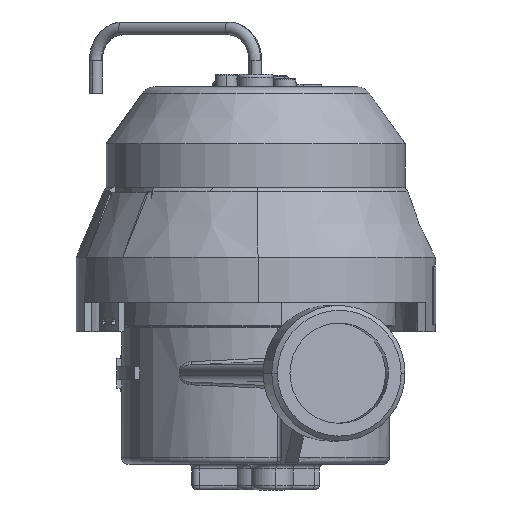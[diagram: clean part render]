
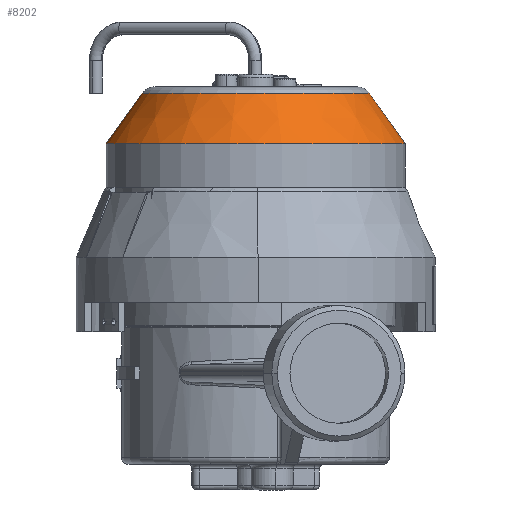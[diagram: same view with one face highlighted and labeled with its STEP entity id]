
A CAD part, front view. The second image highlights one B-rep face of the part: STEP entity #8202.
In plain terms, the highlighted conical face has half-angle 35.507 degrees and reference radius 46.25 mm.
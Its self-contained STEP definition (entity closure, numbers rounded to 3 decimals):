
#108 = ORIENTED_EDGE ( 'NONE', *, *, #33277, .F. ) ;
#830 = EDGE_CURVE ( 'NONE', #3554, #32865, #34578, .T. ) ;
#1206 = DIRECTION ( 'NONE',  ( -1., 0., 0. ) ) ;
#2484 = VECTOR ( 'NONE', #34852, 1000. ) ;
#3406 = CARTESIAN_POINT ( 'NONE',  ( 130.326, 193.717, 168.802 ) ) ;
#3554 = VERTEX_POINT ( 'NONE', #34724 ) ;
#7266 = CONICAL_SURFACE ( 'NONE', #44995, 46.25, 0.62 ) ;
#8202 = ADVANCED_FACE ( 'NONE', ( #11060 ), #7266, .T. ) ;
#10805 = DIRECTION ( 'NONE',  ( -1., 0., 0. ) ) ;
#10806 = DIRECTION ( 'NONE',  ( 0., 0., -1. ) ) ;
#11060 = FACE_OUTER_BOUND ( 'NONE', #25187, .T. ) ;
#11191 = CARTESIAN_POINT ( 'NONE',  ( 211.672, 193.717, 153.169 ) ) ;
#14182 = CARTESIAN_POINT ( 'NONE',  ( 165.422, 193.717, 153.169 ) ) ;
#21391 = AXIS2_PLACEMENT_3D ( 'NONE', #36950, #21407, #1206 ) ;
#21407 = DIRECTION ( 'NONE',  ( 0., 0., -1. ) ) ;
#22539 = ORIENTED_EDGE ( 'NONE', *, *, #34505, .T. ) ;
#23986 = EDGE_CURVE ( 'NONE', #29798, #33441, #31549, .T. ) ;
#25187 = EDGE_LOOP ( 'NONE', ( #47113, #22539, #47166, #108 ) ) ;
#26275 = DIRECTION ( 'NONE',  ( 0., 0., -1. ) ) ;
#29793 = CARTESIAN_POINT ( 'NONE',  ( 211.672, 193.717, 153.169 ) ) ;
#29798 = VERTEX_POINT ( 'NONE', #3406 ) ;
#31549 = LINE ( 'NONE', #47098, #31833 ) ;
#31833 = VECTOR ( 'NONE', #51271, 1000. ) ;
#32865 = VERTEX_POINT ( 'NONE', #29793 ) ;
#33277 = EDGE_CURVE ( 'NONE', #32865, #33441, #44070, .T. ) ;
#33441 = VERTEX_POINT ( 'NONE', #37006 ) ;
#34505 = EDGE_CURVE ( 'NONE', #3554, #29798, #48320, .T. ) ;
#34578 = LINE ( 'NONE', #11191, #2484 ) ;
#34724 = CARTESIAN_POINT ( 'NONE',  ( 200.518, 193.717, 168.802 ) ) ;
#34852 = DIRECTION ( 'NONE',  ( 0.581, 0., -0.814 ) ) ;
#36950 = CARTESIAN_POINT ( 'NONE',  ( 165.422, 193.717, 168.802 ) ) ;
#37006 = CARTESIAN_POINT ( 'NONE',  ( 119.172, 193.717, 153.169 ) ) ;
#38171 = AXIS2_PLACEMENT_3D ( 'NONE', #50760, #10806, #39434 ) ;
#39434 = DIRECTION ( 'NONE',  ( -1., 0., 0. ) ) ;
#44070 = CIRCLE ( 'NONE', #38171, 46.25 ) ;
#44995 = AXIS2_PLACEMENT_3D ( 'NONE', #14182, #26275, #10805 ) ;
#47098 = CARTESIAN_POINT ( 'NONE',  ( 119.172, 193.717, 153.169 ) ) ;
#47113 = ORIENTED_EDGE ( 'NONE', *, *, #830, .F. ) ;
#47166 = ORIENTED_EDGE ( 'NONE', *, *, #23986, .T. ) ;
#48320 = CIRCLE ( 'NONE', #21391, 35.096 ) ;
#50760 = CARTESIAN_POINT ( 'NONE',  ( 165.422, 193.717, 153.169 ) ) ;
#51271 = DIRECTION ( 'NONE',  ( -0.581, 0., -0.814 ) ) ;
